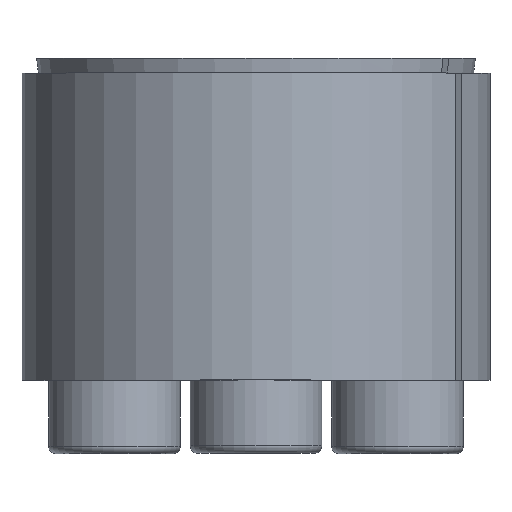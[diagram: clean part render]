
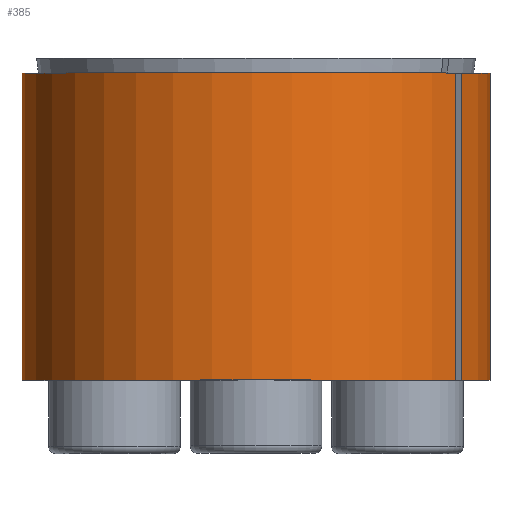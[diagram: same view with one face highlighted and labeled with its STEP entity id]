
A CAD part, top view. The second image highlights one B-rep face of the part: STEP entity #385.
In plain terms, the highlighted cylindrical face has radius 8 mm (diameter 16 mm), a partial arc.
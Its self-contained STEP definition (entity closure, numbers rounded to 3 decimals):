
#385 = ADVANCED_FACE( '', ( #635 ), #636, .T. );
#635 = FACE_OUTER_BOUND( '', #852, .T. );
#636 = CYLINDRICAL_SURFACE( '', #853, 8. );
#852 = EDGE_LOOP( '', ( #1138, #1139, #1140, #1141 ) );
#853 = AXIS2_PLACEMENT_3D( '', #1142, #1143, #1144 );
#1138 = ORIENTED_EDGE( '', *, *, #1610, .T. );
#1139 = ORIENTED_EDGE( '', *, *, #1614, .T. );
#1140 = ORIENTED_EDGE( '', *, *, #1605, .T. );
#1141 = ORIENTED_EDGE( '', *, *, #1596, .T. );
#1142 = CARTESIAN_POINT( '', ( 0., -60., 0. ) );
#1143 = DIRECTION( '', ( 0., -1., 0. ) );
#1144 = DIRECTION( '', ( 0., 0., 1. ) );
#1596 = EDGE_CURVE( '', #1770, #1768, #1771, .T. );
#1605 = EDGE_CURVE( '', #1786, #1770, #1787, .T. );
#1610 = EDGE_CURVE( '', #1768, #1792, #1794, .T. );
#1614 = EDGE_CURVE( '', #1792, #1786, #1799, .F. );
#1768 = VERTEX_POINT( '', #1943 );
#1770 = VERTEX_POINT( '', #1946 );
#1771 = LINE( '', #1947, #1948 );
#1786 = VERTEX_POINT( '', #1970 );
#1787 = CIRCLE( '', #1971, 8. );
#1792 = VERTEX_POINT( '', #1980 );
#1794 = CIRCLE( '', #1983, 8. );
#1799 = LINE( '', #1990, #1991 );
#1943 = CARTESIAN_POINT( '', ( 6.826, 5., 4.172 ) );
#1946 = CARTESIAN_POINT( '', ( 6.826, -5.5, 4.172 ) );
#1947 = CARTESIAN_POINT( '', ( 6.826, -60., 4.172 ) );
#1948 = VECTOR( '', #2220, 1000. );
#1970 = CARTESIAN_POINT( '', ( 7.026, -5.5, 3.826 ) );
#1971 = AXIS2_PLACEMENT_3D( '', #2237, #2238, #2239 );
#1980 = CARTESIAN_POINT( '', ( 7.026, 5., 3.826 ) );
#1983 = AXIS2_PLACEMENT_3D( '', #2245, #2246, #2247 );
#1990 = CARTESIAN_POINT( '', ( 7.026, -60., 3.826 ) );
#1991 = VECTOR( '', #2253, 1000. );
#2220 = DIRECTION( '', ( 0., 1., 0. ) );
#2237 = CARTESIAN_POINT( '', ( 0., -5.5, 0. ) );
#2238 = DIRECTION( '', ( 0., 1., 0. ) );
#2239 = DIRECTION( '', ( 0., 0., 1. ) );
#2245 = CARTESIAN_POINT( '', ( 0., 5., 0. ) );
#2246 = DIRECTION( '', ( 0., -1., 0. ) );
#2247 = DIRECTION( '', ( 0., 0., -1. ) );
#2253 = DIRECTION( '', ( 0., 1., 0. ) );
